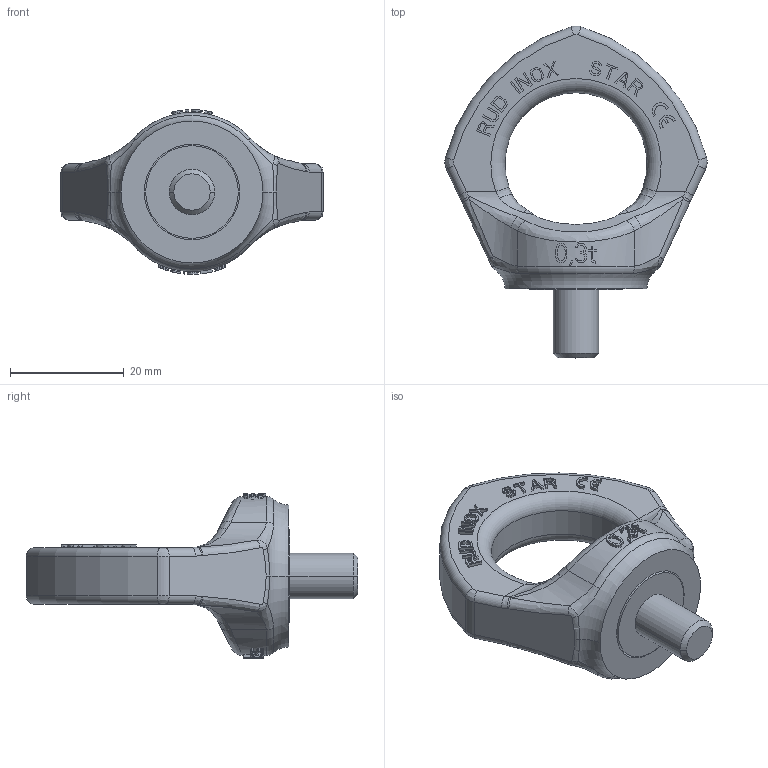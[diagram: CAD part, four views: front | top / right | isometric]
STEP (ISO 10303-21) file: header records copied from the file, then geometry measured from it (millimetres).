
FILE_DESCRIPTION((''),'2;1');
FILE_NAME('001-M35699-P-20_ASM','2023-01-23T15:53:27',('Andreas.Wendler'),(''),'CREO PARAMETRIC BY PTC INC, 2022162','CREO PARAMETRIC BY PTC INC, 2022162','');
FILE_SCHEMA(('AP242_MANAGED_MODEL_BASED_3D_ENGINEERING_MIM_LF { 1 0 10303 442 1 1 4 }'));
Length unit declared in the file: millimetre
Products named in the file (5): 001-M35699-P-10; S235JRG2; 001-M36398-P-10; 001-M35699-P-20_ASM
Assembly tree (2 placements, depth 2):
  S235JRG2
  S235JRG2
  001-M35699-P-20_ASM
    001-M35699-P-10
    001-M36398-P-10
Bounding box: 46.16 x 58.45 x 29 mm (x, y, z)
Volume: 14498.8 mm3; surface area: 6872.4 mm2
Topology: 2 solids, 2 shells, 815 faces, 2267 edges, 1492 vertices
Faces by surface type: plane 699, bspline 52, cylinder 50, torus 12, cone 2
Entity records: 27621 total; most frequent: CARTESIAN_POINT 7705, ORIENTED_EDGE 4534, DIRECTION 3417, EDGE_CURVE 2267, VERTEX_POINT 1492, VECTOR 1465, LINE 1465, AXIS2_PLACEMENT_3D 976
